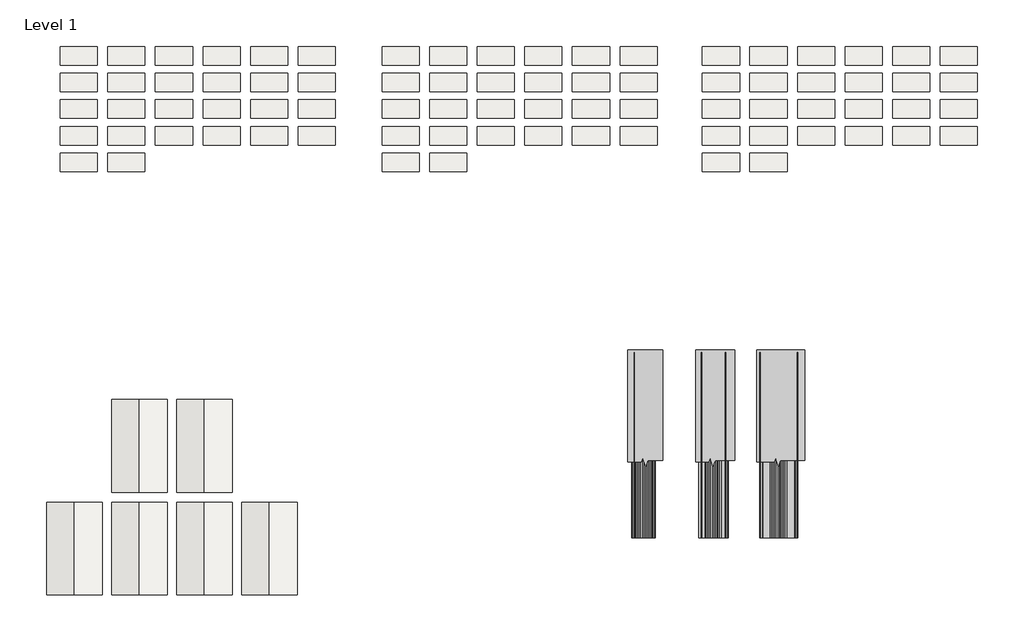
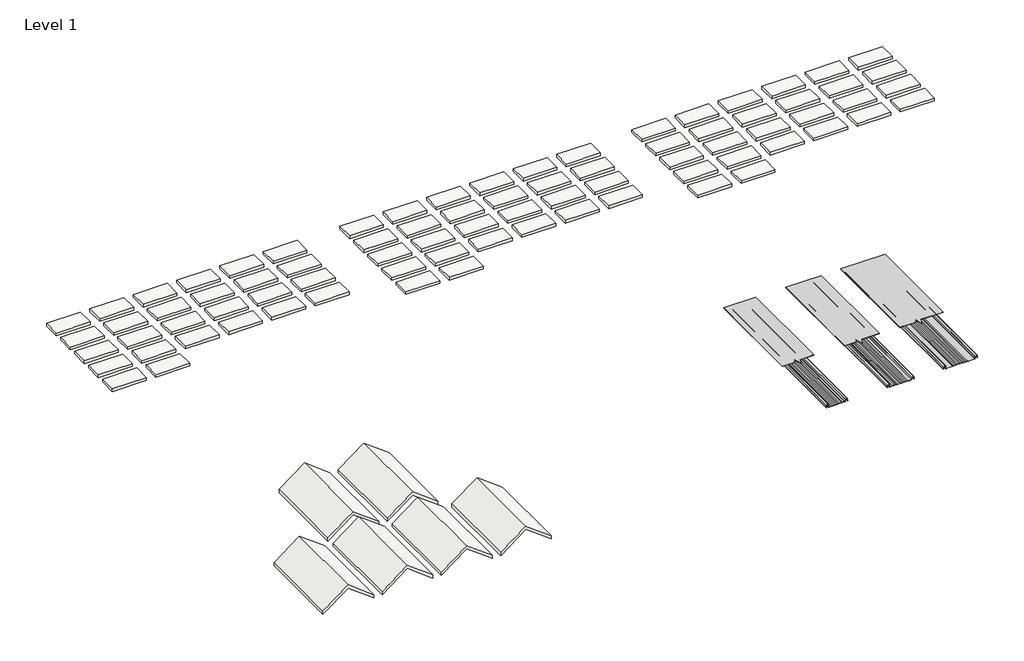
# One storey: 78 slabs, 6 proxies, 6 roofs.
"""IFC4 building model written with IfcOpenShell, lengths in millimetres."""

from ifc_helpers import new_model, si_unit, frame, origin, place, context, project, spatial, polyline, outline, extrude, transform, mapped, element, save
from components import section_mask1_section_mask_2c14d906, section_mask2_section_mask_046a2748, section_mask3_section_mask_784fd4bf, proxy_2cd85a49, proxy_3873b3a4, proxy_5037e488

model = new_model("IFC4")

# Units and contexts
model_context = context("Model", 3, world=origin())
ifc_project = project(units=[si_unit("LENGTHUNIT", "METRE", prefix="MILLI")], contexts=[model_context])

# Site, building, storey
site = spatial("IfcSite", under=ifc_project)
building = spatial("IfcBuilding", under=site)
storey = spatial("IfcBuildingStorey", under=building, Name="Level 1", Elevation=0.0)

# Proxies
placement = place(None, origin())
section_mask1_section_mask_shape = section_mask1_section_mask_2c14d906(model_context)
element("IfcBuildingElementProxy", 1, Name="Section Mask1 : Section Mask", ObjectType="Section Mask1 : Section Mask", at=placement, inside=storey, context=model_context, shape_type="MappedRepresentation", body=[
    mapped(section_mask1_section_mask_shape, transform((-2425.5060223, 48.6802774, 7.9375), x_axis=(1.0, 0.0, 0.0), y_axis=(0.0, 1.0, 0.0), z_axis=(0.0, 0.0, 1.0))),
])
section_mask2_section_mask_shape = section_mask2_section_mask_046a2748(model_context)
element("IfcBuildingElementProxy", 2, Name="Section Mask2 : Section Mask", ObjectType="Section Mask2 : Section Mask", at=placement, inside=storey, context=model_context, shape_type="MappedRepresentation", body=[
    mapped(section_mask2_section_mask_shape, transform((-1352.3560223, 48.6802774, 7.9375), x_axis=(1.0, 0.0, 0.0), y_axis=(0.0, 1.0, 0.0), z_axis=(0.0, 0.0, 1.0))),
])
section_mask3_section_mask_shape = section_mask3_section_mask_784fd4bf(model_context)
element("IfcBuildingElementProxy", 3, Name="Section Mask3 : Section Mask", ObjectType="Section Mask3 : Section Mask", at=placement, inside=storey, context=model_context, shape_type="MappedRepresentation", body=[
    mapped(section_mask3_section_mask_shape, transform((-3530.4060223, 48.6802774, 7.9375), x_axis=(1.0, 0.0, 0.0), y_axis=(0.0, 1.0, 0.0), z_axis=(0.0, 0.0, 1.0))),
])
proxy_shape = proxy_2cd85a49(model_context)
element("IfcBuildingElementProxy", 4, Name="Select-Seam_Wide-Batten_Roofing_Panel_AEP_Span : 12\" Select Seam - Wide Batten Roofing - 22ga", ObjectType="Select-Seam_Wide-Batten_Roofing_Panel_AEP_Span : 12\" Select Seam - Wide Batten Roofing - 22ga", at=placement, inside=storey, context=model_context, shape_type="MappedRepresentation", body=[
    mapped(proxy_shape, transform((4621.337284, 2473.5805312, 0.0), x_axis=(1.0, 0.0, 0.0), y_axis=(0.0, 1.0, 0.0), z_axis=(0.0, 0.0, 1.0))),
])
proxy_2_shape = proxy_3873b3a4(model_context)
element("IfcBuildingElementProxy", 5, Name="Select-Seam_Wide-Batten_Roofing_Panel_AEP_Span : 16\" Select Seam - Wide Batten Roofing - 22ga", ObjectType="Select-Seam_Wide-Batten_Roofing_Panel_AEP_Span : 16\" Select Seam - Wide Batten Roofing - 22ga", at=placement, inside=storey, context=model_context, shape_type="MappedRepresentation", body=[
    mapped(proxy_2_shape, transform((5769.4461575, 2473.5805312, 0.0), x_axis=(1.0, 0.0, 0.0), y_axis=(0.0, 1.0, 0.0), z_axis=(0.0, 0.0, 1.0))),
])
proxy_3_shape = proxy_5037e488(model_context)
element("IfcBuildingElementProxy", 6, Name="Select-Seam_Wide-Batten_Roofing_Panel_AEP_Span : 21 1/4\" Select Seam - Wide Batten Roofing - 22ga", ObjectType="Select-Seam_Wide-Batten_Roofing_Panel_AEP_Span : 21 1/4\" Select Seam - Wide Batten Roofing - 22ga", at=placement, inside=storey, context=model_context, shape_type="MappedRepresentation", body=[
    mapped(proxy_3_shape, transform((6842.5925959, 2473.5805312, 0.0), x_axis=(1.0, 0.0, 0.0), y_axis=(0.0, 1.0, 0.0), z_axis=(0.0, 0.0, 1.0))),
])

# Roofs
element("IfcRoof", 7, ObjectType="13 1/4\" Select Seam - Wide Batten Roofing - 22ga", at=placement, inside=storey, context=model_context, shape_type="SweptSolid", body=[
    extrude(outline(polyline([(59.53125, -3190.4750229), (402.43125, -3647.6750229), (59.53125, -4104.8750229), (0.0, -4104.8750229), (342.9, -3647.6750229), (0.0, -3190.4750229), (59.53125, -3190.4750229)])), frame((0.0, 178.6584683, 0.0), z_axis=(0.0, 1.0, 0.0), x_axis=(0.0, 0.0, 1.0)), (0.0, 0.0, 1.0), 1524.0),
])
element("IfcRoof", 8, ObjectType="13 1/4\" Select Seam - Wide Batten Roofing - 24ga", at=placement, inside=storey, context=model_context, shape_type="SweptSolid", body=[
    extrude(outline(polyline([(59.53125, -2123.6750229), (402.43125, -2580.8750229), (59.53125, -3038.0750229), (0.0, -3038.0750229), (342.9, -2580.8750229), (0.0, -2123.6750229), (59.53125, -2123.6750229)])), frame((0.0, 178.6584683, 0.0), z_axis=(0.0, 1.0, 0.0), x_axis=(0.0, 0.0, 1.0)), (0.0, 0.0, 1.0), 1524.0),
])
element("IfcRoof", 9, ObjectType="17 1/4\" Select Seam - Wide Batten Roofing - 22ga", at=placement, inside=storey, context=model_context, shape_type="SweptSolid", body=[
    extrude(outline(polyline([(59.53125, -4257.2750229), (402.43125, -4714.4750229), (59.53125, -5171.6750229), (0.0, -5171.6750229), (342.9, -4714.4750229), (0.0, -4257.2750229), (59.53125, -4257.2750229)])), frame((0.0, -1510.2262262, 0.0), z_axis=(0.0, 1.0, 0.0), x_axis=(0.0, 0.0, 1.0)), (0.0, 0.0, 1.0), 1524.0),
])
element("IfcRoof", 10, ObjectType="17 1/4\" Select Seam - Wide Batten Roofing - 24ga", at=placement, inside=storey, context=model_context, shape_type="SweptSolid", body=[
    extrude(outline(polyline([(59.53125, -3190.4750229), (402.43125, -3647.6750229), (59.53125, -4104.8750229), (0.0, -4104.8750229), (342.9, -3647.6750229), (0.0, -3190.4750229), (59.53125, -3190.4750229)])), frame((0.0, -1510.2262262, 0.0), z_axis=(0.0, 1.0, 0.0), x_axis=(0.0, 0.0, 1.0)), (0.0, 0.0, 1.0), 1524.0),
])
element("IfcRoof", 11, ObjectType="21 1/2\" Select Seam - Wide Batten Roofing - 22ga", at=placement, inside=storey, context=model_context, shape_type="SweptSolid", body=[
    extrude(outline(polyline([(59.53125, -2123.6750229), (402.43125, -2580.8750229), (59.53125, -3038.0750229), (0.0, -3038.0750229), (342.9, -2580.8750229), (0.0, -2123.6750229), (59.53125, -2123.6750229)])), frame((0.0, -1510.2262262, 0.0), z_axis=(0.0, 1.0, 0.0), x_axis=(0.0, 0.0, 1.0)), (0.0, 0.0, 1.0), 1524.0),
])
element("IfcRoof", 12, ObjectType="21 1/2\" Select Seam - Wide Batten Roofing - 24ga", at=placement, inside=storey, context=model_context, shape_type="SweptSolid", body=[
    extrude(outline(polyline([(59.53125, -1056.8750229), (402.43125, -1514.0750229), (59.53125, -1971.2750229), (0.0, -1971.2750229), (342.9, -1514.0750229), (0.0, -1056.8750229), (59.53125, -1056.8750229)])), frame((0.0, -1510.2262262, 0.0), z_axis=(0.0, 1.0, 0.0), x_axis=(0.0, 0.0, 1.0)), (0.0, 0.0, 1.0), 1524.0),
])

# Slabs
element("IfcSlab", 13, ObjectType="AEP Span Color Sample", at=placement, inside=storey, context=model_context, shape_type="SweptSolid", body=[
    extrude(outline(polyline([(-4336.915334, 7196.0746889), (-4946.515334, 7196.0746889), (-4946.515334, 7500.8746889), (-4336.915334, 7500.8746889), (-4336.915334, 7196.0746889)])), frame((0.0, 0.0, -50.8), z_axis=(0.0, 0.0, 1.0), x_axis=(1.0, 0.0, 0.0)), (0.0, 0.0, 1.0), 50.8),
])
element("IfcSlab", 14, ObjectType="AEP Span Color Sample", at=placement, inside=storey, context=model_context, shape_type="SweptSolid", body=[
    extrude(outline(polyline([(-3555.865334, 7196.0746889), (-4165.465334, 7196.0746889), (-4165.465334, 7500.8746889), (-3555.865334, 7500.8746889), (-3555.865334, 7196.0746889)])), frame((0.0, 0.0, -50.8), z_axis=(0.0, 0.0, 1.0), x_axis=(1.0, 0.0, 0.0)), (0.0, 0.0, 1.0), 50.8),
])
element("IfcSlab", 15, ObjectType="AEP Span Color Sample", at=placement, inside=storey, context=model_context, shape_type="SweptSolid", body=[
    extrude(outline(polyline([(-2774.815334, 7196.0746889), (-3384.415334, 7196.0746889), (-3384.415334, 7500.8746889), (-2774.815334, 7500.8746889), (-2774.815334, 7196.0746889)])), frame((0.0, 0.0, -50.8), z_axis=(0.0, 0.0, 1.0), x_axis=(1.0, 0.0, 0.0)), (0.0, 0.0, 1.0), 50.8),
])
element("IfcSlab", 16, ObjectType="AEP Span Color Sample", at=placement, inside=storey, context=model_context, shape_type="SweptSolid", body=[
    extrude(outline(polyline([(-1993.765334, 7196.0746889), (-2603.365334, 7196.0746889), (-2603.365334, 7500.8746889), (-1993.765334, 7500.8746889), (-1993.765334, 7196.0746889)])), frame((0.0, 0.0, -50.8), z_axis=(0.0, 0.0, 1.0), x_axis=(1.0, 0.0, 0.0)), (0.0, 0.0, 1.0), 50.8),
])
element("IfcSlab", 17, ObjectType="AEP Span Color Sample", at=placement, inside=storey, context=model_context, shape_type="SweptSolid", body=[
    extrude(outline(polyline([(-1212.715334, 7196.0746889), (-1822.315334, 7196.0746889), (-1822.315334, 7500.8746889), (-1212.715334, 7500.8746889), (-1212.715334, 7196.0746889)])), frame((0.0, 0.0, -50.8), z_axis=(0.0, 0.0, 1.0), x_axis=(1.0, 0.0, 0.0)), (0.0, 0.0, 1.0), 50.8),
])
element("IfcSlab", 18, ObjectType="AEP Span Color Sample", at=placement, inside=storey, context=model_context, shape_type="SweptSolid", body=[
    extrude(outline(polyline([(-431.665334, 7196.0746889), (-1041.265334, 7196.0746889), (-1041.265334, 7500.8746889), (-431.665334, 7500.8746889), (-431.665334, 7196.0746889)])), frame((0.0, 0.0, -50.8), z_axis=(0.0, 0.0, 1.0), x_axis=(1.0, 0.0, 0.0)), (0.0, 0.0, 1.0), 50.8),
])
element("IfcSlab", 19, ObjectType="AEP Span Color Sample", at=placement, inside=storey, context=model_context, shape_type="SweptSolid", body=[
    extrude(outline(polyline([(-4336.915334, 6757.9246889), (-4946.515334, 6757.9246889), (-4946.515334, 7062.7246889), (-4336.915334, 7062.7246889), (-4336.915334, 6757.9246889)])), frame((0.0, 0.0, -50.8), z_axis=(0.0, 0.0, 1.0), x_axis=(1.0, 0.0, 0.0)), (0.0, 0.0, 1.0), 50.8),
])
element("IfcSlab", 20, ObjectType="AEP Span Color Sample", at=placement, inside=storey, context=model_context, shape_type="SweptSolid", body=[
    extrude(outline(polyline([(-3555.865334, 6757.9246889), (-4165.465334, 6757.9246889), (-4165.465334, 7062.7246889), (-3555.865334, 7062.7246889), (-3555.865334, 6757.9246889)])), frame((0.0, 0.0, -50.8), z_axis=(0.0, 0.0, 1.0), x_axis=(1.0, 0.0, 0.0)), (0.0, 0.0, 1.0), 50.8),
])
element("IfcSlab", 21, ObjectType="AEP Span Color Sample", at=placement, inside=storey, context=model_context, shape_type="SweptSolid", body=[
    extrude(outline(polyline([(-2774.815334, 6757.9246889), (-3384.415334, 6757.9246889), (-3384.415334, 7062.7246889), (-2774.815334, 7062.7246889), (-2774.815334, 6757.9246889)])), frame((0.0, 0.0, -50.8), z_axis=(0.0, 0.0, 1.0), x_axis=(1.0, 0.0, 0.0)), (0.0, 0.0, 1.0), 50.8),
])
element("IfcSlab", 22, ObjectType="AEP Span Color Sample", at=placement, inside=storey, context=model_context, shape_type="SweptSolid", body=[
    extrude(outline(polyline([(-1993.765334, 6757.9246889), (-2603.365334, 6757.9246889), (-2603.365334, 7062.7246889), (-1993.765334, 7062.7246889), (-1993.765334, 6757.9246889)])), frame((0.0, 0.0, -50.8), z_axis=(0.0, 0.0, 1.0), x_axis=(1.0, 0.0, 0.0)), (0.0, 0.0, 1.0), 50.8),
])
element("IfcSlab", 23, ObjectType="AEP Span Color Sample", at=placement, inside=storey, context=model_context, shape_type="SweptSolid", body=[
    extrude(outline(polyline([(-1212.715334, 6757.9246889), (-1822.315334, 6757.9246889), (-1822.315334, 7062.7246889), (-1212.715334, 7062.7246889), (-1212.715334, 6757.9246889)])), frame((0.0, 0.0, -50.8), z_axis=(0.0, 0.0, 1.0), x_axis=(1.0, 0.0, 0.0)), (0.0, 0.0, 1.0), 50.8),
])
element("IfcSlab", 24, ObjectType="AEP Span Color Sample", at=placement, inside=storey, context=model_context, shape_type="SweptSolid", body=[
    extrude(outline(polyline([(-431.665334, 6757.9246889), (-1041.265334, 6757.9246889), (-1041.265334, 7062.7246889), (-431.665334, 7062.7246889), (-431.665334, 6757.9246889)])), frame((0.0, 0.0, -50.8), z_axis=(0.0, 0.0, 1.0), x_axis=(1.0, 0.0, 0.0)), (0.0, 0.0, 1.0), 50.8),
])
element("IfcSlab", 25, ObjectType="AEP Span Color Sample", at=placement, inside=storey, context=model_context, shape_type="SweptSolid", body=[
    extrude(outline(polyline([(-4336.915334, 6319.7746889), (-4946.515334, 6319.7746889), (-4946.515334, 6624.5746889), (-4336.915334, 6624.5746889), (-4336.915334, 6319.7746889)])), frame((0.0, 0.0, -50.8), z_axis=(0.0, 0.0, 1.0), x_axis=(1.0, 0.0, 0.0)), (0.0, 0.0, 1.0), 50.8),
])
element("IfcSlab", 26, ObjectType="AEP Span Color Sample", at=placement, inside=storey, context=model_context, shape_type="SweptSolid", body=[
    extrude(outline(polyline([(-3555.865334, 6319.7746889), (-4165.465334, 6319.7746889), (-4165.465334, 6624.5746889), (-3555.865334, 6624.5746889), (-3555.865334, 6319.7746889)])), frame((0.0, 0.0, -50.8), z_axis=(0.0, 0.0, 1.0), x_axis=(1.0, 0.0, 0.0)), (0.0, 0.0, 1.0), 50.8),
])
element("IfcSlab", 27, ObjectType="AEP Span Color Sample", at=placement, inside=storey, context=model_context, shape_type="SweptSolid", body=[
    extrude(outline(polyline([(-2774.815334, 6319.7746889), (-3384.415334, 6319.7746889), (-3384.415334, 6624.5746889), (-2774.815334, 6624.5746889), (-2774.815334, 6319.7746889)])), frame((0.0, 0.0, -50.8), z_axis=(0.0, 0.0, 1.0), x_axis=(1.0, 0.0, 0.0)), (0.0, 0.0, 1.0), 50.8),
])
element("IfcSlab", 28, ObjectType="AEP Span Color Sample", at=placement, inside=storey, context=model_context, shape_type="SweptSolid", body=[
    extrude(outline(polyline([(-1993.765334, 6319.7746889), (-2603.365334, 6319.7746889), (-2603.365334, 6624.5746889), (-1993.765334, 6624.5746889), (-1993.765334, 6319.7746889)])), frame((0.0, 0.0, -50.8), z_axis=(0.0, 0.0, 1.0), x_axis=(1.0, 0.0, 0.0)), (0.0, 0.0, 1.0), 50.8),
])
element("IfcSlab", 29, ObjectType="AEP Span Color Sample", at=placement, inside=storey, context=model_context, shape_type="SweptSolid", body=[
    extrude(outline(polyline([(-1212.715334, 6319.7746889), (-1822.315334, 6319.7746889), (-1822.315334, 6624.5746889), (-1212.715334, 6624.5746889), (-1212.715334, 6319.7746889)])), frame((0.0, 0.0, -50.8), z_axis=(0.0, 0.0, 1.0), x_axis=(1.0, 0.0, 0.0)), (0.0, 0.0, 1.0), 50.8),
])
element("IfcSlab", 30, ObjectType="AEP Span Color Sample", at=placement, inside=storey, context=model_context, shape_type="SweptSolid", body=[
    extrude(outline(polyline([(-431.665334, 6319.7746889), (-1041.265334, 6319.7746889), (-1041.265334, 6624.5746889), (-431.665334, 6624.5746889), (-431.665334, 6319.7746889)])), frame((0.0, 0.0, -50.8), z_axis=(0.0, 0.0, 1.0), x_axis=(1.0, 0.0, 0.0)), (0.0, 0.0, 1.0), 50.8),
])
element("IfcSlab", 31, ObjectType="AEP Span Color Sample", at=placement, inside=storey, context=model_context, shape_type="SweptSolid", body=[
    extrude(outline(polyline([(-4336.915334, 5881.6246889), (-4946.515334, 5881.6246889), (-4946.515334, 6186.4246889), (-4336.915334, 6186.4246889), (-4336.915334, 5881.6246889)])), frame((0.0, 0.0, -50.8), z_axis=(0.0, 0.0, 1.0), x_axis=(1.0, 0.0, 0.0)), (0.0, 0.0, 1.0), 50.8),
])
element("IfcSlab", 32, ObjectType="AEP Span Color Sample", at=placement, inside=storey, context=model_context, shape_type="SweptSolid", body=[
    extrude(outline(polyline([(-3555.865334, 5881.6246889), (-4165.465334, 5881.6246889), (-4165.465334, 6186.4246889), (-3555.865334, 6186.4246889), (-3555.865334, 5881.6246889)])), frame((0.0, 0.0, -50.8), z_axis=(0.0, 0.0, 1.0), x_axis=(1.0, 0.0, 0.0)), (0.0, 0.0, 1.0), 50.8),
])
element("IfcSlab", 33, ObjectType="AEP Span Color Sample", at=placement, inside=storey, context=model_context, shape_type="SweptSolid", body=[
    extrude(outline(polyline([(-2774.815334, 5881.6246889), (-3384.415334, 5881.6246889), (-3384.415334, 6186.4246889), (-2774.815334, 6186.4246889), (-2774.815334, 5881.6246889)])), frame((0.0, 0.0, -50.8), z_axis=(0.0, 0.0, 1.0), x_axis=(1.0, 0.0, 0.0)), (0.0, 0.0, 1.0), 50.8),
])
element("IfcSlab", 34, ObjectType="AEP Span Color Sample", at=placement, inside=storey, context=model_context, shape_type="SweptSolid", body=[
    extrude(outline(polyline([(-1993.765334, 5881.6246889), (-2603.365334, 5881.6246889), (-2603.365334, 6186.4246889), (-1993.765334, 6186.4246889), (-1993.765334, 5881.6246889)])), frame((0.0, 0.0, -50.8), z_axis=(0.0, 0.0, 1.0), x_axis=(1.0, 0.0, 0.0)), (0.0, 0.0, 1.0), 50.8),
])
element("IfcSlab", 35, ObjectType="AEP Span Color Sample", at=placement, inside=storey, context=model_context, shape_type="SweptSolid", body=[
    extrude(outline(polyline([(-1212.715334, 5881.6246889), (-1822.315334, 5881.6246889), (-1822.315334, 6186.4246889), (-1212.715334, 6186.4246889), (-1212.715334, 5881.6246889)])), frame((0.0, 0.0, -50.8), z_axis=(0.0, 0.0, 1.0), x_axis=(1.0, 0.0, 0.0)), (0.0, 0.0, 1.0), 50.8),
])
element("IfcSlab", 36, ObjectType="AEP Span Color Sample", at=placement, inside=storey, context=model_context, shape_type="SweptSolid", body=[
    extrude(outline(polyline([(-431.665334, 5881.6246889), (-1041.265334, 5881.6246889), (-1041.265334, 6186.4246889), (-431.665334, 6186.4246889), (-431.665334, 5881.6246889)])), frame((0.0, 0.0, -50.8), z_axis=(0.0, 0.0, 1.0), x_axis=(1.0, 0.0, 0.0)), (0.0, 0.0, 1.0), 50.8),
])
element("IfcSlab", 37, ObjectType="AEP Span Color Sample", at=placement, inside=storey, context=model_context, shape_type="SweptSolid", body=[
    extrude(outline(polyline([(-4336.915334, 5443.4746889), (-4946.515334, 5443.4746889), (-4946.515334, 5748.2746889), (-4336.915334, 5748.2746889), (-4336.915334, 5443.4746889)])), frame((0.0, 0.0, -50.8), z_axis=(0.0, 0.0, 1.0), x_axis=(1.0, 0.0, 0.0)), (0.0, 0.0, 1.0), 50.8),
])
element("IfcSlab", 38, ObjectType="AEP Span Color Sample", at=placement, inside=storey, context=model_context, shape_type="SweptSolid", body=[
    extrude(outline(polyline([(-3555.865334, 5443.4746889), (-4165.465334, 5443.4746889), (-4165.465334, 5748.2746889), (-3555.865334, 5748.2746889), (-3555.865334, 5443.4746889)])), frame((0.0, 0.0, -50.8), z_axis=(0.0, 0.0, 1.0), x_axis=(1.0, 0.0, 0.0)), (0.0, 0.0, 1.0), 50.8),
])
element("IfcSlab", 39, ObjectType="AEP Span Color Sample", at=placement, inside=storey, context=model_context, shape_type="SweptSolid", body=[
    extrude(outline(polyline([(946.284666, 7196.0746889), (336.684666, 7196.0746889), (336.684666, 7500.8746889), (946.284666, 7500.8746889), (946.284666, 7196.0746889)])), frame((0.0, 0.0, -50.8), z_axis=(0.0, 0.0, 1.0), x_axis=(1.0, 0.0, 0.0)), (0.0, 0.0, 1.0), 50.8),
])
element("IfcSlab", 40, ObjectType="AEP Span Color Sample", at=placement, inside=storey, context=model_context, shape_type="SweptSolid", body=[
    extrude(outline(polyline([(1727.334666, 7196.0746889), (1117.734666, 7196.0746889), (1117.734666, 7500.8746889), (1727.334666, 7500.8746889), (1727.334666, 7196.0746889)])), frame((0.0, 0.0, -50.8), z_axis=(0.0, 0.0, 1.0), x_axis=(1.0, 0.0, 0.0)), (0.0, 0.0, 1.0), 50.8),
])
element("IfcSlab", 41, ObjectType="AEP Span Color Sample", at=placement, inside=storey, context=model_context, shape_type="SweptSolid", body=[
    extrude(outline(polyline([(2508.384666, 7196.0746889), (1898.784666, 7196.0746889), (1898.784666, 7500.8746889), (2508.384666, 7500.8746889), (2508.384666, 7196.0746889)])), frame((0.0, 0.0, -50.8), z_axis=(0.0, 0.0, 1.0), x_axis=(1.0, 0.0, 0.0)), (0.0, 0.0, 1.0), 50.8),
])
element("IfcSlab", 42, ObjectType="AEP Span Color Sample", at=placement, inside=storey, context=model_context, shape_type="SweptSolid", body=[
    extrude(outline(polyline([(3289.434666, 7196.0746889), (2679.834666, 7196.0746889), (2679.834666, 7500.8746889), (3289.434666, 7500.8746889), (3289.434666, 7196.0746889)])), frame((0.0, 0.0, -50.8), z_axis=(0.0, 0.0, 1.0), x_axis=(1.0, 0.0, 0.0)), (0.0, 0.0, 1.0), 50.8),
])
element("IfcSlab", 43, ObjectType="AEP Span Color Sample", at=placement, inside=storey, context=model_context, shape_type="SweptSolid", body=[
    extrude(outline(polyline([(4070.484666, 7196.0746889), (3460.884666, 7196.0746889), (3460.884666, 7500.8746889), (4070.484666, 7500.8746889), (4070.484666, 7196.0746889)])), frame((0.0, 0.0, -50.8), z_axis=(0.0, 0.0, 1.0), x_axis=(1.0, 0.0, 0.0)), (0.0, 0.0, 1.0), 50.8),
])
element("IfcSlab", 44, ObjectType="AEP Span Color Sample", at=placement, inside=storey, context=model_context, shape_type="SweptSolid", body=[
    extrude(outline(polyline([(4851.534666, 7196.0746889), (4241.934666, 7196.0746889), (4241.934666, 7500.8746889), (4851.534666, 7500.8746889), (4851.534666, 7196.0746889)])), frame((0.0, 0.0, -50.8), z_axis=(0.0, 0.0, 1.0), x_axis=(1.0, 0.0, 0.0)), (0.0, 0.0, 1.0), 50.8),
])
element("IfcSlab", 45, ObjectType="AEP Span Color Sample", at=placement, inside=storey, context=model_context, shape_type="SweptSolid", body=[
    extrude(outline(polyline([(946.284666, 6757.9246889), (336.684666, 6757.9246889), (336.684666, 7062.7246889), (946.284666, 7062.7246889), (946.284666, 6757.9246889)])), frame((0.0, 0.0, -50.8), z_axis=(0.0, 0.0, 1.0), x_axis=(1.0, 0.0, 0.0)), (0.0, 0.0, 1.0), 50.8),
])
element("IfcSlab", 46, ObjectType="AEP Span Color Sample", at=placement, inside=storey, context=model_context, shape_type="SweptSolid", body=[
    extrude(outline(polyline([(1727.334666, 6757.9246889), (1117.734666, 6757.9246889), (1117.734666, 7062.7246889), (1727.334666, 7062.7246889), (1727.334666, 6757.9246889)])), frame((0.0, 0.0, -50.8), z_axis=(0.0, 0.0, 1.0), x_axis=(1.0, 0.0, 0.0)), (0.0, 0.0, 1.0), 50.8),
])
element("IfcSlab", 47, ObjectType="AEP Span Color Sample", at=placement, inside=storey, context=model_context, shape_type="SweptSolid", body=[
    extrude(outline(polyline([(2508.384666, 6757.9246889), (1898.784666, 6757.9246889), (1898.784666, 7062.7246889), (2508.384666, 7062.7246889), (2508.384666, 6757.9246889)])), frame((0.0, 0.0, -50.8), z_axis=(0.0, 0.0, 1.0), x_axis=(1.0, 0.0, 0.0)), (0.0, 0.0, 1.0), 50.8),
])
element("IfcSlab", 48, ObjectType="AEP Span Color Sample", at=placement, inside=storey, context=model_context, shape_type="SweptSolid", body=[
    extrude(outline(polyline([(3289.434666, 6757.9246889), (2679.834666, 6757.9246889), (2679.834666, 7062.7246889), (3289.434666, 7062.7246889), (3289.434666, 6757.9246889)])), frame((0.0, 0.0, -50.8), z_axis=(0.0, 0.0, 1.0), x_axis=(1.0, 0.0, 0.0)), (0.0, 0.0, 1.0), 50.8),
])
element("IfcSlab", 49, ObjectType="AEP Span Color Sample", at=placement, inside=storey, context=model_context, shape_type="SweptSolid", body=[
    extrude(outline(polyline([(4070.484666, 6757.9246889), (3460.884666, 6757.9246889), (3460.884666, 7062.7246889), (4070.484666, 7062.7246889), (4070.484666, 6757.9246889)])), frame((0.0, 0.0, -50.8), z_axis=(0.0, 0.0, 1.0), x_axis=(1.0, 0.0, 0.0)), (0.0, 0.0, 1.0), 50.8),
])
element("IfcSlab", 50, ObjectType="AEP Span Color Sample", at=placement, inside=storey, context=model_context, shape_type="SweptSolid", body=[
    extrude(outline(polyline([(4851.534666, 6757.9246889), (4241.934666, 6757.9246889), (4241.934666, 7062.7246889), (4851.534666, 7062.7246889), (4851.534666, 6757.9246889)])), frame((0.0, 0.0, -50.8), z_axis=(0.0, 0.0, 1.0), x_axis=(1.0, 0.0, 0.0)), (0.0, 0.0, 1.0), 50.8),
])
element("IfcSlab", 51, ObjectType="AEP Span Color Sample", at=placement, inside=storey, context=model_context, shape_type="SweptSolid", body=[
    extrude(outline(polyline([(946.284666, 6319.7746889), (336.684666, 6319.7746889), (336.684666, 6624.5746889), (946.284666, 6624.5746889), (946.284666, 6319.7746889)])), frame((0.0, 0.0, -50.8), z_axis=(0.0, 0.0, 1.0), x_axis=(1.0, 0.0, 0.0)), (0.0, 0.0, 1.0), 50.8),
])
element("IfcSlab", 52, ObjectType="AEP Span Color Sample", at=placement, inside=storey, context=model_context, shape_type="SweptSolid", body=[
    extrude(outline(polyline([(1727.334666, 6319.7746889), (1117.734666, 6319.7746889), (1117.734666, 6624.5746889), (1727.334666, 6624.5746889), (1727.334666, 6319.7746889)])), frame((0.0, 0.0, -50.8), z_axis=(0.0, 0.0, 1.0), x_axis=(1.0, 0.0, 0.0)), (0.0, 0.0, 1.0), 50.8),
])
element("IfcSlab", 53, ObjectType="AEP Span Color Sample", at=placement, inside=storey, context=model_context, shape_type="SweptSolid", body=[
    extrude(outline(polyline([(2508.384666, 6319.7746889), (1898.784666, 6319.7746889), (1898.784666, 6624.5746889), (2508.384666, 6624.5746889), (2508.384666, 6319.7746889)])), frame((0.0, 0.0, -50.8), z_axis=(0.0, 0.0, 1.0), x_axis=(1.0, 0.0, 0.0)), (0.0, 0.0, 1.0), 50.8),
])
element("IfcSlab", 54, ObjectType="AEP Span Color Sample", at=placement, inside=storey, context=model_context, shape_type="SweptSolid", body=[
    extrude(outline(polyline([(3289.434666, 6319.7746889), (2679.834666, 6319.7746889), (2679.834666, 6624.5746889), (3289.434666, 6624.5746889), (3289.434666, 6319.7746889)])), frame((0.0, 0.0, -50.8), z_axis=(0.0, 0.0, 1.0), x_axis=(1.0, 0.0, 0.0)), (0.0, 0.0, 1.0), 50.8),
])
element("IfcSlab", 55, ObjectType="AEP Span Color Sample", at=placement, inside=storey, context=model_context, shape_type="SweptSolid", body=[
    extrude(outline(polyline([(4070.484666, 6319.7746889), (3460.884666, 6319.7746889), (3460.884666, 6624.5746889), (4070.484666, 6624.5746889), (4070.484666, 6319.7746889)])), frame((0.0, 0.0, -50.8), z_axis=(0.0, 0.0, 1.0), x_axis=(1.0, 0.0, 0.0)), (0.0, 0.0, 1.0), 50.8),
])
element("IfcSlab", 56, ObjectType="AEP Span Color Sample", at=placement, inside=storey, context=model_context, shape_type="SweptSolid", body=[
    extrude(outline(polyline([(4851.534666, 6319.7746889), (4241.934666, 6319.7746889), (4241.934666, 6624.5746889), (4851.534666, 6624.5746889), (4851.534666, 6319.7746889)])), frame((0.0, 0.0, -50.8), z_axis=(0.0, 0.0, 1.0), x_axis=(1.0, 0.0, 0.0)), (0.0, 0.0, 1.0), 50.8),
])
element("IfcSlab", 57, ObjectType="AEP Span Color Sample", at=placement, inside=storey, context=model_context, shape_type="SweptSolid", body=[
    extrude(outline(polyline([(946.284666, 5881.6246889), (336.684666, 5881.6246889), (336.684666, 6186.4246889), (946.284666, 6186.4246889), (946.284666, 5881.6246889)])), frame((0.0, 0.0, -50.8), z_axis=(0.0, 0.0, 1.0), x_axis=(1.0, 0.0, 0.0)), (0.0, 0.0, 1.0), 50.8),
])
element("IfcSlab", 58, ObjectType="AEP Span Color Sample", at=placement, inside=storey, context=model_context, shape_type="SweptSolid", body=[
    extrude(outline(polyline([(1727.334666, 5881.6246889), (1117.734666, 5881.6246889), (1117.734666, 6186.4246889), (1727.334666, 6186.4246889), (1727.334666, 5881.6246889)])), frame((0.0, 0.0, -50.8), z_axis=(0.0, 0.0, 1.0), x_axis=(1.0, 0.0, 0.0)), (0.0, 0.0, 1.0), 50.8),
])
element("IfcSlab", 59, ObjectType="AEP Span Color Sample", at=placement, inside=storey, context=model_context, shape_type="SweptSolid", body=[
    extrude(outline(polyline([(2508.384666, 5881.6246889), (1898.784666, 5881.6246889), (1898.784666, 6186.4246889), (2508.384666, 6186.4246889), (2508.384666, 5881.6246889)])), frame((0.0, 0.0, -50.8), z_axis=(0.0, 0.0, 1.0), x_axis=(1.0, 0.0, 0.0)), (0.0, 0.0, 1.0), 50.8),
])
element("IfcSlab", 60, ObjectType="AEP Span Color Sample", at=placement, inside=storey, context=model_context, shape_type="SweptSolid", body=[
    extrude(outline(polyline([(3289.434666, 5881.6246889), (2679.834666, 5881.6246889), (2679.834666, 6186.4246889), (3289.434666, 6186.4246889), (3289.434666, 5881.6246889)])), frame((0.0, 0.0, -50.8), z_axis=(0.0, 0.0, 1.0), x_axis=(1.0, 0.0, 0.0)), (0.0, 0.0, 1.0), 50.8),
])
element("IfcSlab", 61, ObjectType="AEP Span Color Sample", at=placement, inside=storey, context=model_context, shape_type="SweptSolid", body=[
    extrude(outline(polyline([(4070.484666, 5881.6246889), (3460.884666, 5881.6246889), (3460.884666, 6186.4246889), (4070.484666, 6186.4246889), (4070.484666, 5881.6246889)])), frame((0.0, 0.0, -50.8), z_axis=(0.0, 0.0, 1.0), x_axis=(1.0, 0.0, 0.0)), (0.0, 0.0, 1.0), 50.8),
])
element("IfcSlab", 62, ObjectType="AEP Span Color Sample", at=placement, inside=storey, context=model_context, shape_type="SweptSolid", body=[
    extrude(outline(polyline([(4851.534666, 5881.6246889), (4241.934666, 5881.6246889), (4241.934666, 6186.4246889), (4851.534666, 6186.4246889), (4851.534666, 5881.6246889)])), frame((0.0, 0.0, -50.8), z_axis=(0.0, 0.0, 1.0), x_axis=(1.0, 0.0, 0.0)), (0.0, 0.0, 1.0), 50.8),
])
element("IfcSlab", 63, ObjectType="AEP Span Color Sample", at=placement, inside=storey, context=model_context, shape_type="SweptSolid", body=[
    extrude(outline(polyline([(946.284666, 5443.4746889), (336.684666, 5443.4746889), (336.684666, 5748.2746889), (946.284666, 5748.2746889), (946.284666, 5443.4746889)])), frame((0.0, 0.0, -50.8), z_axis=(0.0, 0.0, 1.0), x_axis=(1.0, 0.0, 0.0)), (0.0, 0.0, 1.0), 50.8),
])
element("IfcSlab", 64, ObjectType="AEP Span Color Sample", at=placement, inside=storey, context=model_context, shape_type="SweptSolid", body=[
    extrude(outline(polyline([(1727.334666, 5443.4746889), (1117.734666, 5443.4746889), (1117.734666, 5748.2746889), (1727.334666, 5748.2746889), (1727.334666, 5443.4746889)])), frame((0.0, 0.0, -50.8), z_axis=(0.0, 0.0, 1.0), x_axis=(1.0, 0.0, 0.0)), (0.0, 0.0, 1.0), 50.8),
])
element("IfcSlab", 65, ObjectType="AEP Span Color Sample", at=placement, inside=storey, context=model_context, shape_type="SweptSolid", body=[
    extrude(outline(polyline([(6204.084666, 7196.0746889), (5594.484666, 7196.0746889), (5594.484666, 7500.8746889), (6204.084666, 7500.8746889), (6204.084666, 7196.0746889)])), frame((0.0, 0.0, -50.8), z_axis=(0.0, 0.0, 1.0), x_axis=(1.0, 0.0, 0.0)), (0.0, 0.0, 1.0), 50.8),
])
element("IfcSlab", 66, ObjectType="AEP Span Color Sample", at=placement, inside=storey, context=model_context, shape_type="SweptSolid", body=[
    extrude(outline(polyline([(6985.134666, 7196.0746889), (6375.534666, 7196.0746889), (6375.534666, 7500.8746889), (6985.134666, 7500.8746889), (6985.134666, 7196.0746889)])), frame((0.0, 0.0, -50.8), z_axis=(0.0, 0.0, 1.0), x_axis=(1.0, 0.0, 0.0)), (0.0, 0.0, 1.0), 50.8),
])
element("IfcSlab", 67, ObjectType="AEP Span Color Sample", at=placement, inside=storey, context=model_context, shape_type="SweptSolid", body=[
    extrude(outline(polyline([(7766.184666, 7196.0746889), (7156.584666, 7196.0746889), (7156.584666, 7500.8746889), (7766.184666, 7500.8746889), (7766.184666, 7196.0746889)])), frame((0.0, 0.0, -50.8), z_axis=(0.0, 0.0, 1.0), x_axis=(1.0, 0.0, 0.0)), (0.0, 0.0, 1.0), 50.8),
])
element("IfcSlab", 68, ObjectType="AEP Span Color Sample", at=placement, inside=storey, context=model_context, shape_type="SweptSolid", body=[
    extrude(outline(polyline([(8547.234666, 7196.0746889), (7937.634666, 7196.0746889), (7937.634666, 7500.8746889), (8547.234666, 7500.8746889), (8547.234666, 7196.0746889)])), frame((0.0, 0.0, -50.8), z_axis=(0.0, 0.0, 1.0), x_axis=(1.0, 0.0, 0.0)), (0.0, 0.0, 1.0), 50.8),
])
element("IfcSlab", 69, ObjectType="AEP Span Color Sample", at=placement, inside=storey, context=model_context, shape_type="SweptSolid", body=[
    extrude(outline(polyline([(9328.284666, 7196.0746889), (8718.684666, 7196.0746889), (8718.684666, 7500.8746889), (9328.284666, 7500.8746889), (9328.284666, 7196.0746889)])), frame((0.0, 0.0, -50.8), z_axis=(0.0, 0.0, 1.0), x_axis=(1.0, 0.0, 0.0)), (0.0, 0.0, 1.0), 50.8),
])
element("IfcSlab", 70, ObjectType="AEP Span Color Sample", at=placement, inside=storey, context=model_context, shape_type="SweptSolid", body=[
    extrude(outline(polyline([(10109.334666, 7196.0746889), (9499.734666, 7196.0746889), (9499.734666, 7500.8746889), (10109.334666, 7500.8746889), (10109.334666, 7196.0746889)])), frame((0.0, 0.0, -50.8), z_axis=(0.0, 0.0, 1.0), x_axis=(1.0, 0.0, 0.0)), (0.0, 0.0, 1.0), 50.8),
])
element("IfcSlab", 71, ObjectType="AEP Span Color Sample", at=placement, inside=storey, context=model_context, shape_type="SweptSolid", body=[
    extrude(outline(polyline([(6204.084666, 6757.9246889), (5594.484666, 6757.9246889), (5594.484666, 7062.7246889), (6204.084666, 7062.7246889), (6204.084666, 6757.9246889)])), frame((0.0, 0.0, -50.8), z_axis=(0.0, 0.0, 1.0), x_axis=(1.0, 0.0, 0.0)), (0.0, 0.0, 1.0), 50.8),
])
element("IfcSlab", 72, ObjectType="AEP Span Color Sample", at=placement, inside=storey, context=model_context, shape_type="SweptSolid", body=[
    extrude(outline(polyline([(6985.134666, 6757.9246889), (6375.534666, 6757.9246889), (6375.534666, 7062.7246889), (6985.134666, 7062.7246889), (6985.134666, 6757.9246889)])), frame((0.0, 0.0, -50.8), z_axis=(0.0, 0.0, 1.0), x_axis=(1.0, 0.0, 0.0)), (0.0, 0.0, 1.0), 50.8),
])
element("IfcSlab", 73, ObjectType="AEP Span Color Sample", at=placement, inside=storey, context=model_context, shape_type="SweptSolid", body=[
    extrude(outline(polyline([(7766.184666, 6757.9246889), (7156.584666, 6757.9246889), (7156.584666, 7062.7246889), (7766.184666, 7062.7246889), (7766.184666, 6757.9246889)])), frame((0.0, 0.0, -50.8), z_axis=(0.0, 0.0, 1.0), x_axis=(1.0, 0.0, 0.0)), (0.0, 0.0, 1.0), 50.8),
])
element("IfcSlab", 74, ObjectType="AEP Span Color Sample", at=placement, inside=storey, context=model_context, shape_type="SweptSolid", body=[
    extrude(outline(polyline([(8547.234666, 6757.9246889), (7937.634666, 6757.9246889), (7937.634666, 7062.7246889), (8547.234666, 7062.7246889), (8547.234666, 6757.9246889)])), frame((0.0, 0.0, -50.8), z_axis=(0.0, 0.0, 1.0), x_axis=(1.0, 0.0, 0.0)), (0.0, 0.0, 1.0), 50.8),
])
element("IfcSlab", 75, ObjectType="AEP Span Color Sample", at=placement, inside=storey, context=model_context, shape_type="SweptSolid", body=[
    extrude(outline(polyline([(9328.284666, 6757.9246889), (8718.684666, 6757.9246889), (8718.684666, 7062.7246889), (9328.284666, 7062.7246889), (9328.284666, 6757.9246889)])), frame((0.0, 0.0, -50.8), z_axis=(0.0, 0.0, 1.0), x_axis=(1.0, 0.0, 0.0)), (0.0, 0.0, 1.0), 50.8),
])
element("IfcSlab", 76, ObjectType="AEP Span Color Sample", at=placement, inside=storey, context=model_context, shape_type="SweptSolid", body=[
    extrude(outline(polyline([(10109.334666, 6757.9246889), (9499.734666, 6757.9246889), (9499.734666, 7062.7246889), (10109.334666, 7062.7246889), (10109.334666, 6757.9246889)])), frame((0.0, 0.0, -50.8), z_axis=(0.0, 0.0, 1.0), x_axis=(1.0, 0.0, 0.0)), (0.0, 0.0, 1.0), 50.8),
])
element("IfcSlab", 77, ObjectType="AEP Span Color Sample", at=placement, inside=storey, context=model_context, shape_type="SweptSolid", body=[
    extrude(outline(polyline([(6204.084666, 6319.7746889), (5594.484666, 6319.7746889), (5594.484666, 6624.5746889), (6204.084666, 6624.5746889), (6204.084666, 6319.7746889)])), frame((0.0, 0.0, -50.8), z_axis=(0.0, 0.0, 1.0), x_axis=(1.0, 0.0, 0.0)), (0.0, 0.0, 1.0), 50.8),
])
element("IfcSlab", 78, ObjectType="AEP Span Color Sample", at=placement, inside=storey, context=model_context, shape_type="SweptSolid", body=[
    extrude(outline(polyline([(6985.134666, 6319.7746889), (6375.534666, 6319.7746889), (6375.534666, 6624.5746889), (6985.134666, 6624.5746889), (6985.134666, 6319.7746889)])), frame((0.0, 0.0, -50.8), z_axis=(0.0, 0.0, 1.0), x_axis=(1.0, 0.0, 0.0)), (0.0, 0.0, 1.0), 50.8),
])
element("IfcSlab", 79, ObjectType="AEP Span Color Sample", at=placement, inside=storey, context=model_context, shape_type="SweptSolid", body=[
    extrude(outline(polyline([(7766.184666, 6319.7746889), (7156.584666, 6319.7746889), (7156.584666, 6624.5746889), (7766.184666, 6624.5746889), (7766.184666, 6319.7746889)])), frame((0.0, 0.0, -50.8), z_axis=(0.0, 0.0, 1.0), x_axis=(1.0, 0.0, 0.0)), (0.0, 0.0, 1.0), 50.8),
])
element("IfcSlab", 80, ObjectType="AEP Span Color Sample", at=placement, inside=storey, context=model_context, shape_type="SweptSolid", body=[
    extrude(outline(polyline([(8547.234666, 6319.7746889), (7937.634666, 6319.7746889), (7937.634666, 6624.5746889), (8547.234666, 6624.5746889), (8547.234666, 6319.7746889)])), frame((0.0, 0.0, -50.8), z_axis=(0.0, 0.0, 1.0), x_axis=(1.0, 0.0, 0.0)), (0.0, 0.0, 1.0), 50.8),
])
element("IfcSlab", 81, ObjectType="AEP Span Color Sample", at=placement, inside=storey, context=model_context, shape_type="SweptSolid", body=[
    extrude(outline(polyline([(9328.284666, 6319.7746889), (8718.684666, 6319.7746889), (8718.684666, 6624.5746889), (9328.284666, 6624.5746889), (9328.284666, 6319.7746889)])), frame((0.0, 0.0, -50.8), z_axis=(0.0, 0.0, 1.0), x_axis=(1.0, 0.0, 0.0)), (0.0, 0.0, 1.0), 50.8),
])
element("IfcSlab", 82, ObjectType="AEP Span Color Sample", at=placement, inside=storey, context=model_context, shape_type="SweptSolid", body=[
    extrude(outline(polyline([(10109.334666, 6319.7746889), (9499.734666, 6319.7746889), (9499.734666, 6624.5746889), (10109.334666, 6624.5746889), (10109.334666, 6319.7746889)])), frame((0.0, 0.0, -50.8), z_axis=(0.0, 0.0, 1.0), x_axis=(1.0, 0.0, 0.0)), (0.0, 0.0, 1.0), 50.8),
])
element("IfcSlab", 83, ObjectType="AEP Span Color Sample", at=placement, inside=storey, context=model_context, shape_type="SweptSolid", body=[
    extrude(outline(polyline([(6204.084666, 5881.6246889), (5594.484666, 5881.6246889), (5594.484666, 6186.4246889), (6204.084666, 6186.4246889), (6204.084666, 5881.6246889)])), frame((0.0, 0.0, -50.8), z_axis=(0.0, 0.0, 1.0), x_axis=(1.0, 0.0, 0.0)), (0.0, 0.0, 1.0), 50.8),
])
element("IfcSlab", 84, ObjectType="AEP Span Color Sample", at=placement, inside=storey, context=model_context, shape_type="SweptSolid", body=[
    extrude(outline(polyline([(6985.134666, 5881.6246889), (6375.534666, 5881.6246889), (6375.534666, 6186.4246889), (6985.134666, 6186.4246889), (6985.134666, 5881.6246889)])), frame((0.0, 0.0, -50.8), z_axis=(0.0, 0.0, 1.0), x_axis=(1.0, 0.0, 0.0)), (0.0, 0.0, 1.0), 50.8),
])
element("IfcSlab", 85, ObjectType="AEP Span Color Sample", at=placement, inside=storey, context=model_context, shape_type="SweptSolid", body=[
    extrude(outline(polyline([(7766.184666, 5881.6246889), (7156.584666, 5881.6246889), (7156.584666, 6186.4246889), (7766.184666, 6186.4246889), (7766.184666, 5881.6246889)])), frame((0.0, 0.0, -50.8), z_axis=(0.0, 0.0, 1.0), x_axis=(1.0, 0.0, 0.0)), (0.0, 0.0, 1.0), 50.8),
])
element("IfcSlab", 86, ObjectType="AEP Span Color Sample", at=placement, inside=storey, context=model_context, shape_type="SweptSolid", body=[
    extrude(outline(polyline([(8547.234666, 5881.6246889), (7937.634666, 5881.6246889), (7937.634666, 6186.4246889), (8547.234666, 6186.4246889), (8547.234666, 5881.6246889)])), frame((0.0, 0.0, -50.8), z_axis=(0.0, 0.0, 1.0), x_axis=(1.0, 0.0, 0.0)), (0.0, 0.0, 1.0), 50.8),
])
element("IfcSlab", 87, ObjectType="AEP Span Color Sample", at=placement, inside=storey, context=model_context, shape_type="SweptSolid", body=[
    extrude(outline(polyline([(9328.284666, 5881.6246889), (8718.684666, 5881.6246889), (8718.684666, 6186.4246889), (9328.284666, 6186.4246889), (9328.284666, 5881.6246889)])), frame((0.0, 0.0, -50.8), z_axis=(0.0, 0.0, 1.0), x_axis=(1.0, 0.0, 0.0)), (0.0, 0.0, 1.0), 50.8),
])
element("IfcSlab", 88, ObjectType="AEP Span Color Sample", at=placement, inside=storey, context=model_context, shape_type="SweptSolid", body=[
    extrude(outline(polyline([(10109.334666, 5881.6246889), (9499.734666, 5881.6246889), (9499.734666, 6186.4246889), (10109.334666, 6186.4246889), (10109.334666, 5881.6246889)])), frame((0.0, 0.0, -50.8), z_axis=(0.0, 0.0, 1.0), x_axis=(1.0, 0.0, 0.0)), (0.0, 0.0, 1.0), 50.8),
])
element("IfcSlab", 89, ObjectType="AEP Span Color Sample", at=placement, inside=storey, context=model_context, shape_type="SweptSolid", body=[
    extrude(outline(polyline([(6204.084666, 5443.4746889), (5594.484666, 5443.4746889), (5594.484666, 5748.2746889), (6204.084666, 5748.2746889), (6204.084666, 5443.4746889)])), frame((0.0, 0.0, -50.8), z_axis=(0.0, 0.0, 1.0), x_axis=(1.0, 0.0, 0.0)), (0.0, 0.0, 1.0), 50.8),
])
element("IfcSlab", 90, ObjectType="AEP Span Color Sample", at=placement, inside=storey, context=model_context, shape_type="SweptSolid", body=[
    extrude(outline(polyline([(6985.134666, 5443.4746889), (6375.534666, 5443.4746889), (6375.534666, 5748.2746889), (6985.134666, 5748.2746889), (6985.134666, 5443.4746889)])), frame((0.0, 0.0, -50.8), z_axis=(0.0, 0.0, 1.0), x_axis=(1.0, 0.0, 0.0)), (0.0, 0.0, 1.0), 50.8),
])

save(model, "model.ifc")
